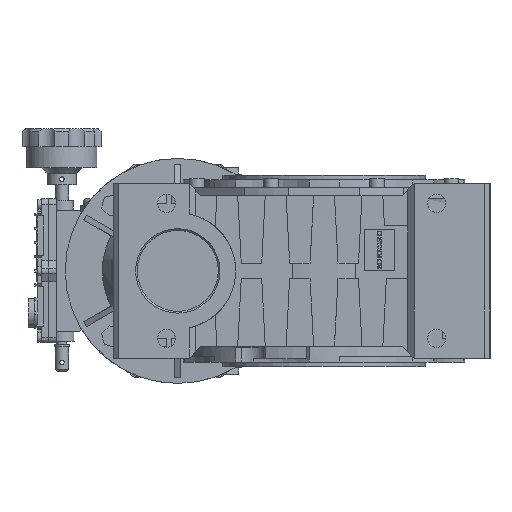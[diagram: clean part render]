
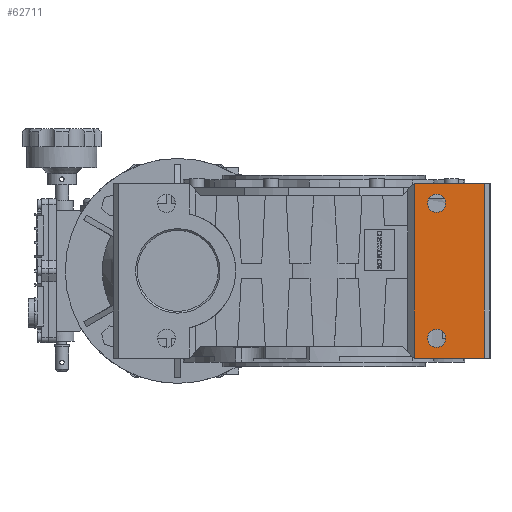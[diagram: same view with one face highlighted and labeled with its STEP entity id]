
A CAD part, left-side view. The second image highlights one B-rep face of the part: STEP entity #62711.
In plain terms, the highlighted planar face has unit normal (-1, 0, 0) as drawn and (0, 1, 0) by its records, which use the part's own axes.
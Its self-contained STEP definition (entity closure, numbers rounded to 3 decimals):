
#779=CIRCLE('',#66491,8.);
#780=CIRCLE('',#66492,8.);
#5946=ORIENTED_EDGE('',*,*,#24602,.F.);
#5947=ORIENTED_EDGE('',*,*,#24603,.F.);
#5948=ORIENTED_EDGE('',*,*,#24538,.T.);
#5949=ORIENTED_EDGE('',*,*,#24561,.F.);
#5950=ORIENTED_EDGE('',*,*,#24506,.F.);
#5951=ORIENTED_EDGE('',*,*,#24601,.T.);
#24506=EDGE_CURVE('',#33821,#33822,#40284,.T.);
#24538=EDGE_CURVE('',#33843,#33842,#40316,.T.);
#24561=EDGE_CURVE('',#33822,#33842,#40337,.T.);
#24601=EDGE_CURVE('',#33821,#33843,#40370,.T.);
#24602=EDGE_CURVE('',#33869,#33869,#779,.F.);
#24603=EDGE_CURVE('',#33870,#33870,#780,.F.);
#33821=VERTEX_POINT('',#93479);
#33822=VERTEX_POINT('',#93480);
#33842=VERTEX_POINT('',#93538);
#33843=VERTEX_POINT('',#93540);
#33869=VERTEX_POINT('',#93650);
#33870=VERTEX_POINT('',#93652);
#40284=LINE('',#93478,#46591);
#40316=LINE('',#93539,#46623);
#40337=LINE('',#93578,#46644);
#40370=LINE('',#93647,#46677);
#46591=VECTOR('',#73977,1000.);
#46623=VECTOR('',#74023,1000.);
#46644=VECTOR('',#74060,1000.);
#46677=VECTOR('',#74133,1000.);
#52426=EDGE_LOOP('',(#5946));
#52427=EDGE_LOOP('',(#5947));
#52428=EDGE_LOOP('',(#5948,#5949,#5950,#5951));
#56458=FACE_BOUND('',#52426,.T.);
#56459=FACE_BOUND('',#52427,.T.);
#56460=FACE_BOUND('',#52428,.T.);
#60462=PLANE('',#66490);
#62711=ADVANCED_FACE('',(#56458,#56459,#56460),#60462,.F.);
#66490=AXIS2_PLACEMENT_3D('',#93648,#74134,#74135);
#66491=AXIS2_PLACEMENT_3D('',#93649,#74136,#74137);
#66492=AXIS2_PLACEMENT_3D('',#93651,#74138,#74139);
#73977=DIRECTION('',(0.,0.,1.));
#74023=DIRECTION('',(0.,0.,1.));
#74060=DIRECTION('',(-1.,0.,0.));
#74133=DIRECTION('',(-1.,0.,0.));
#74134=DIRECTION('',(0.,-1.,0.));
#74135=DIRECTION('',(0.,0.,-1.));
#74136=DIRECTION('',(0.,-1.,0.));
#74137=DIRECTION('',(0.,0.,-1.));
#74138=DIRECTION('',(0.,-1.,0.));
#74139=DIRECTION('',(0.,0.,-1.));
#93478=CARTESIAN_POINT('',(77.5,147.5,-142.5));
#93479=CARTESIAN_POINT('',(77.5,147.5,-142.5));
#93480=CARTESIAN_POINT('',(77.5,147.5,-80.));
#93538=CARTESIAN_POINT('',(-77.5,147.5,-80.));
#93539=CARTESIAN_POINT('',(-77.5,147.5,-142.5));
#93540=CARTESIAN_POINT('',(-77.5,147.5,-142.5));
#93578=CARTESIAN_POINT('',(77.5,147.5,-80.));
#93647=CARTESIAN_POINT('',(77.5,147.5,-142.5));
#93648=CARTESIAN_POINT('',(77.5,147.5,-142.5));
#93649=CARTESIAN_POINT('',(60.,147.5,-100.));
#93650=CARTESIAN_POINT('',(60.,147.5,-108.));
#93651=CARTESIAN_POINT('',(-60.,147.5,-100.));
#93652=CARTESIAN_POINT('',(-60.,147.5,-108.));
